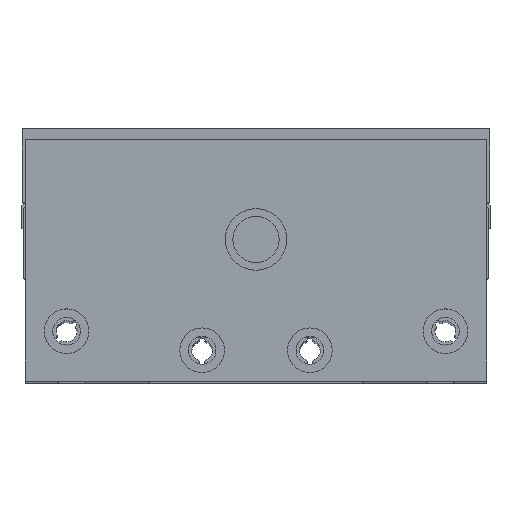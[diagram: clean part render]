
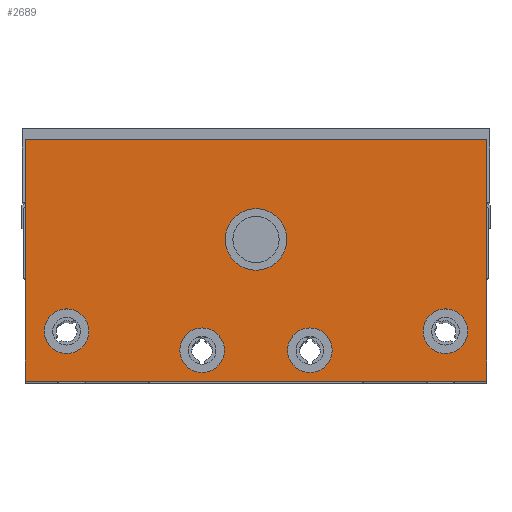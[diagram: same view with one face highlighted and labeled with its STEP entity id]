
A CAD part, top view. The second image highlights one B-rep face of the part: STEP entity #2689.
In plain terms, the highlighted planar face has unit normal (0, 0, 1).
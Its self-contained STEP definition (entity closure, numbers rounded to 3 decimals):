
#2689=ADVANCED_FACE('',(#8520,#8521,#8522,#8523,#8524,#8525),#3768,.T.);
#3768=PLANE('',#26114);
#5350=LINE('',#38856,#7450);
#5351=LINE('',#38859,#7451);
#5352=LINE('',#38861,#7452);
#5353=LINE('',#38863,#7453);
#7450=VECTOR('',#31516,1.);
#7451=VECTOR('',#31517,1.);
#7452=VECTOR('',#31518,1.);
#7453=VECTOR('',#31519,1.);
#8520=FACE_BOUND('',#9913,.T.);
#8521=FACE_BOUND('',#9914,.T.);
#8522=FACE_BOUND('',#9915,.T.);
#8523=FACE_BOUND('',#9916,.T.);
#8524=FACE_BOUND('',#9917,.T.);
#8525=FACE_BOUND('',#9918,.T.);
#9913=EDGE_LOOP('',(#14725));
#9914=EDGE_LOOP('',(#14726));
#9915=EDGE_LOOP('',(#14727));
#9916=EDGE_LOOP('',(#14728));
#9917=EDGE_LOOP('',(#14729));
#9918=EDGE_LOOP('',(#14730,#14731,#14732,#14733));
#14725=ORIENTED_EDGE('',*,*,#21945,.F.);
#14726=ORIENTED_EDGE('',*,*,#21946,.F.);
#14727=ORIENTED_EDGE('',*,*,#21947,.F.);
#14728=ORIENTED_EDGE('',*,*,#21948,.F.);
#14729=ORIENTED_EDGE('',*,*,#21949,.F.);
#14730=ORIENTED_EDGE('',*,*,#21950,.F.);
#14731=ORIENTED_EDGE('',*,*,#21951,.F.);
#14732=ORIENTED_EDGE('',*,*,#21952,.F.);
#14733=ORIENTED_EDGE('',*,*,#21953,.F.);
#18959=VERTEX_POINT('',#38847);
#18960=VERTEX_POINT('',#38849);
#18961=VERTEX_POINT('',#38851);
#18962=VERTEX_POINT('',#38853);
#18963=VERTEX_POINT('',#38855);
#18964=VERTEX_POINT('',#38857);
#18965=VERTEX_POINT('',#38858);
#18966=VERTEX_POINT('',#38860);
#18967=VERTEX_POINT('',#38862);
#21945=EDGE_CURVE('',#18959,#18959,#24055,.T.);
#21946=EDGE_CURVE('',#18960,#18960,#24056,.T.);
#21947=EDGE_CURVE('',#18961,#18961,#24057,.T.);
#21948=EDGE_CURVE('',#18962,#18962,#24058,.T.);
#21949=EDGE_CURVE('',#18963,#18963,#24059,.T.);
#21950=EDGE_CURVE('',#18964,#18965,#5350,.T.);
#21951=EDGE_CURVE('',#18966,#18964,#5351,.T.);
#21952=EDGE_CURVE('',#18967,#18966,#5352,.T.);
#21953=EDGE_CURVE('',#18965,#18967,#5353,.T.);
#24055=CIRCLE('',#26109,7.25);
#24056=CIRCLE('',#26110,7.25);
#24057=CIRCLE('',#26111,7.25);
#24058=CIRCLE('',#26112,7.25);
#24059=CIRCLE('',#26113,10.);
#26109=AXIS2_PLACEMENT_3D('',#38846,#31506,#31507);
#26110=AXIS2_PLACEMENT_3D('',#38848,#31508,#31509);
#26111=AXIS2_PLACEMENT_3D('',#38850,#31510,#31511);
#26112=AXIS2_PLACEMENT_3D('',#38852,#31512,#31513);
#26113=AXIS2_PLACEMENT_3D('',#38854,#31514,#31515);
#26114=AXIS2_PLACEMENT_3D('',#38864,#31520,#31521);
#31506=DIRECTION('',(0.,0.,1.));
#31507=DIRECTION('',(1.,0.,0.));
#31508=DIRECTION('',(0.,0.,1.));
#31509=DIRECTION('',(1.,0.,0.));
#31510=DIRECTION('',(0.,0.,1.));
#31511=DIRECTION('',(1.,0.,0.));
#31512=DIRECTION('',(0.,0.,1.));
#31513=DIRECTION('',(1.,0.,0.));
#31514=DIRECTION('',(0.,0.,1.));
#31515=DIRECTION('',(1.,0.,0.));
#31516=DIRECTION('',(0.,-1.,0.));
#31517=DIRECTION('',(1.,0.,0.));
#31518=DIRECTION('',(0.,1.,0.));
#31519=DIRECTION('',(-1.,0.,0.));
#31520=DIRECTION('',(0.,0.,1.));
#31521=DIRECTION('',(-1.,0.,0.));
#38846=CARTESIAN_POINT('',(61.5,-3.8,-125.789));
#38847=CARTESIAN_POINT('',(54.25,-3.8,-125.789));
#38848=CARTESIAN_POINT('',(17.5,-10.,-125.789));
#38849=CARTESIAN_POINT('',(10.25,-10.,-125.789));
#38850=CARTESIAN_POINT('',(-17.5,-10.,-125.789));
#38851=CARTESIAN_POINT('',(-24.75,-10.,-125.789));
#38852=CARTESIAN_POINT('',(-61.5,-3.8,-125.789));
#38853=CARTESIAN_POINT('',(-68.75,-3.8,-125.789));
#38854=CARTESIAN_POINT('',(0.,26.,-125.789));
#38855=CARTESIAN_POINT('',(10.,26.,-125.789));
#38856=CARTESIAN_POINT('',(75.,-24.325,-125.789));
#38857=CARTESIAN_POINT('',(75.,58.5,-125.789));
#38858=CARTESIAN_POINT('',(75.,-20.,-125.789));
#38859=CARTESIAN_POINT('',(76.,58.5,-125.789));
#38860=CARTESIAN_POINT('',(-75.,58.5,-125.789));
#38861=CARTESIAN_POINT('',(-75.,-24.325,-125.789));
#38862=CARTESIAN_POINT('',(-75.,-20.,-125.789));
#38863=CARTESIAN_POINT('',(-87.725,-20.,-125.789));
#38864=CARTESIAN_POINT('',(-87.725,-24.325,-125.789));
